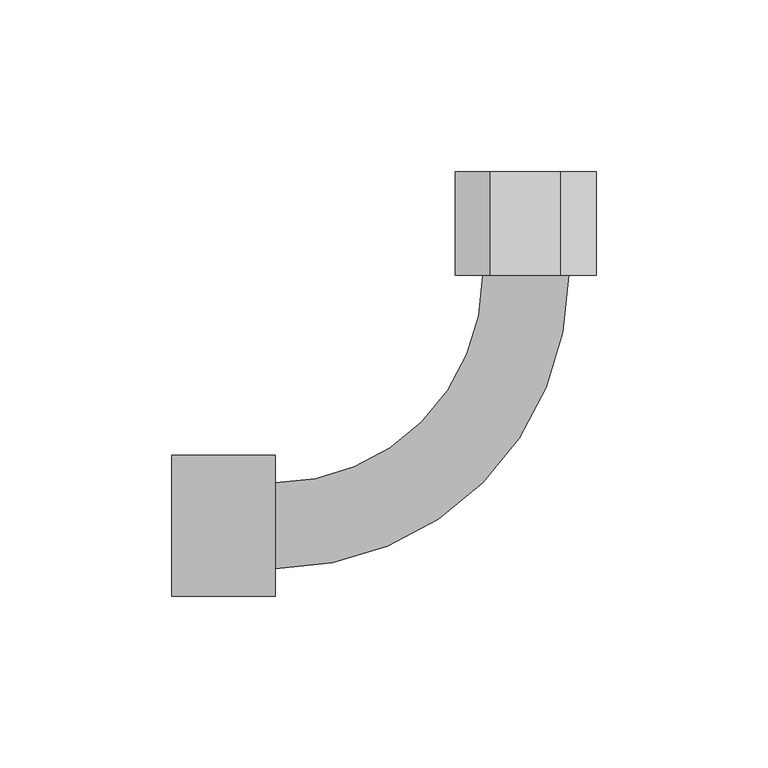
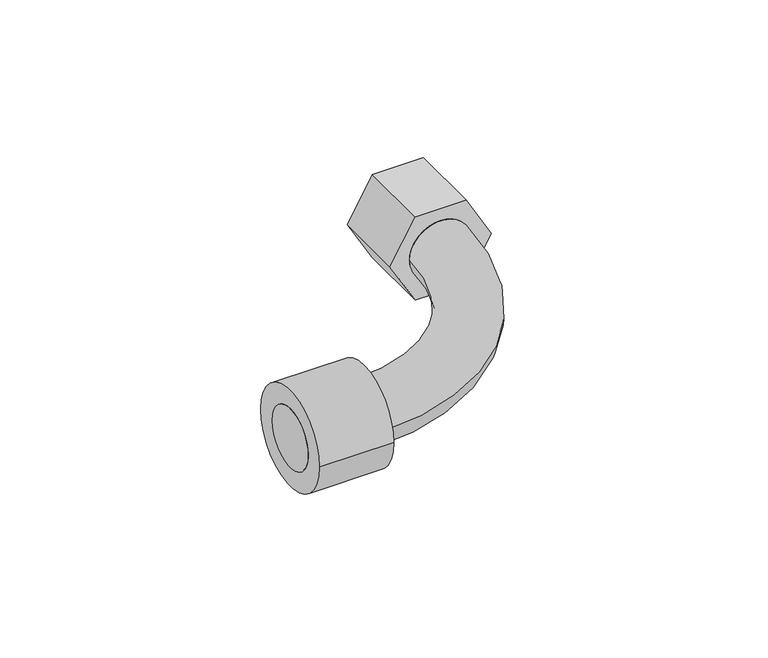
"""IFC4 building model written with IfcOpenShell, lengths in millimetres: cable carrier fitting geometry, Муфта гибкая труба-коробка CXS : Муфта гибкая труба-коробка CXS."""

from ifc_helpers import new_model, si_unit, point, frame, origin, origin_2d, place, context, project, spatial, polyline, circle_curve, ellipse_curve, trimmed, segment, composite_curve, outline, extrude, source, transform, mapped, element, save
from ifc_brep_helpers import plane_surface, cylinder_surface, revolved_surface, advanced_brep


def cable_carrier_fitting_3f3ece2e(model_context):
    return source(origin(), model_context, "Body", "SolidModel", [
        advanced_brep(
        [(-102.8954, -12.4968, 0.0), (-102.8954, 12.4968, 0.0), (-72.898, -12.4968, 0.0), (-72.898, 12.4968, 0.0), (-12.4968, 72.898, 0.0), (12.4968, 72.898, 0.0), (12.4968, 102.8954, 0.0), (-12.4968, 102.8954, 0.0)],
        [
            (0, 1, circle_curve(frame((-102.8954, 0.0, 0.0), z_axis=(-1.0, 0.0, 0.0), x_axis=(0.0, 1.0, 0.0)), 12.4968)),
            (1, 0, circle_curve(frame((-102.8954, 0.0, 0.0), z_axis=(-1.0, 0.0, 0.0), x_axis=(0.0, 1.0, 0.0)), 12.4968)),
            (0, 2),
            (2, 3, circle_curve(frame((-72.898, 0.0, 0.0), z_axis=(-1.0, 0.0, 0.0), x_axis=(0.0, 1.0, 0.0)), 12.4968)),
            (3, 1),
            (3, 2, circle_curve(frame((-72.898, 0.0, 0.0), z_axis=(-1.0, 0.0, 0.0), x_axis=(0.0, 1.0, 0.0)), 12.4968)),
            (4, 3, circle_curve(frame((-72.898, 72.898, 0.0), z_axis=(0.0, 0.0, -1.0), x_axis=(0.0, -1.0, 0.0)), 60.4012)),
            (2, 5, circle_curve(frame((-72.898, 72.898, 0.0), z_axis=(0.0, 0.0, 1.0), x_axis=(0.0, -1.0, 0.0)), 85.3948)),
            (5, 4, circle_curve(frame((0.0, 72.898, 0.0), z_axis=(0.0, -1.0, 0.0), x_axis=(-1.0, 0.0, 0.0)), 12.4968)),
            (4, 5, circle_curve(frame((0.0, 72.898, 0.0), z_axis=(0.0, -1.0, 0.0), x_axis=(-1.0, 0.0, 0.0)), 12.4968)),
            (6, 7, circle_curve(frame((0.0, 102.8954, 0.0), z_axis=(0.0, 1.0, 0.0), x_axis=(-1.0, 0.0, 0.0)), 12.4968)),
            (7, 6, circle_curve(frame((0.0, 102.8954, 0.0), z_axis=(0.0, 1.0, 0.0), x_axis=(-1.0, 0.0, 0.0)), 12.4968)),
            (5, 6),
            (7, 4),
        ],
        [
            plane_surface(frame((-102.8954, 0.0, 0.0), z_axis=(-1.0, 0.0, 0.0), x_axis=(0.0, 0.0, 1.0))),
            cylinder_surface(frame((-102.8954, 0.0, 0.0), z_axis=(-1.0, 0.0, 0.0), x_axis=(0.0, 1.0, 0.0)), 12.4968),
            revolved_surface(trimmed(ellipse_curve(frame((-72.898, 0.0, 0.0), z_axis=(-1.0, 0.0, 0.0), x_axis=(0.0, 1.0, 0.0)), 12.4968, 12.4968), [point((-72.898, -12.4968, 0.0))], [point((-72.898, 12.4968, 0.0))], True, "CARTESIAN"), (-72.898, 72.898, 0.0), (0.0, 0.0, 1.0)),
            revolved_surface(trimmed(ellipse_curve(frame((-72.898, 0.0, 0.0), z_axis=(-1.0, 0.0, 0.0), x_axis=(0.0, 1.0, 0.0)), 12.4968, 12.4968), [point((-72.898, 12.4968, 0.0))], [point((-72.898, -12.4968, 0.0))], True, "CARTESIAN"), (-72.898, 72.898, 0.0), (0.0, 0.0, 1.0)),
            plane_surface(frame((0.0, 102.8954, 0.0), z_axis=(0.0, 1.0, 0.0), x_axis=(0.0, 0.0, 1.0))),
            cylinder_surface(frame((0.0, 72.898, 0.0), z_axis=(0.0, -1.0, 0.0), x_axis=(-1.0, 0.0, 0.0)), 12.4968),
        ],
        [
            (0, [[1, 2]]),
            (1, [[-1, 3, 4, 5]]),
            (1, [[-2, -5, 6, -3]]),
            (2, [[7, -4, 8, 9]]),
            (3, [[-8, -6, -7, 10]]),
            (4, [[11, 12]]),
            (5, [[-9, 13, -12, 14]]),
            (5, [[-10, -14, -11, -13]]),
        ],
    ),
        extrude(outline(composite_curve([segment(trimmed(circle_curve(origin_2d(), 20.5), [point((-20.5, 0.0))], [point((20.5, 0.0))], False, "CARTESIAN"), True, "CONTINUOUS"), segment(trimmed(circle_curve(origin_2d(), 20.5), [point((20.5, 0.0))], [point((-20.5, 0.0))], False, "CARTESIAN"), True, "CONTINUOUS")], self_intersect=False)), frame((-102.8954, 0.0, 0.0), z_axis=(1.0, 0.0, 0.0), x_axis=(0.0, 1.0, 0.0)), (0.0, 0.0, 1.0), 29.9974),
        extrude(outline(polyline([(-17.7535208, 10.25), (0.0, 20.5), (17.7535208, 10.25), (17.7535208, -10.25), (0.0, -20.5), (-17.7535208, -10.25), (-17.7535208, 10.25)])), frame((0.0, 72.898, 0.0), z_axis=(0.0, 1.0, 0.0), x_axis=(0.0, 0.0, 1.0)), (0.0, 0.0, 1.0), 29.9974),
    ])


if __name__ == "__main__":
    model = new_model("IFC4")
    model_context = context("Model", 3, world=origin())
    ifc_project = project(units=[si_unit("LENGTHUNIT", "METRE", prefix="MILLI")], contexts=[model_context])
    site = spatial("IfcSite", under=ifc_project)
    building = spatial("IfcBuilding", under=site)
    placement = place(None, origin())
    cable_carrier_fitting_shape = cable_carrier_fitting_3f3ece2e(model_context)
    element("IfcCableCarrierFitting", 1, ObjectType="Муфта гибкая труба-коробка CXS : Муфта гибкая труба-коробка CXS", at=placement, inside=building, context=model_context, shape_type="MappedRepresentation", body=[
        mapped(cable_carrier_fitting_shape, transform((0.0, 0.0, 0.0), x_axis=(1.0, 0.0, 0.0), y_axis=(0.0, 1.0, 0.0), z_axis=(0.0, 0.0, 1.0))),
    ])
    save(model, "model.ifc")
